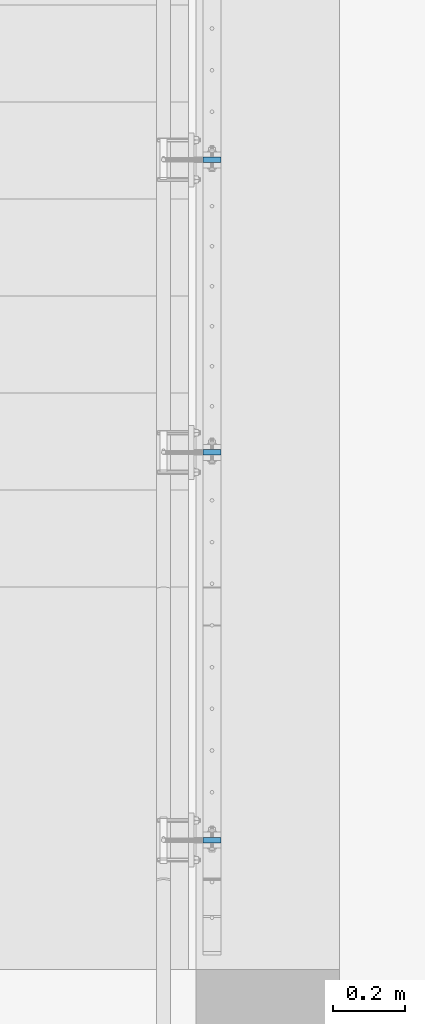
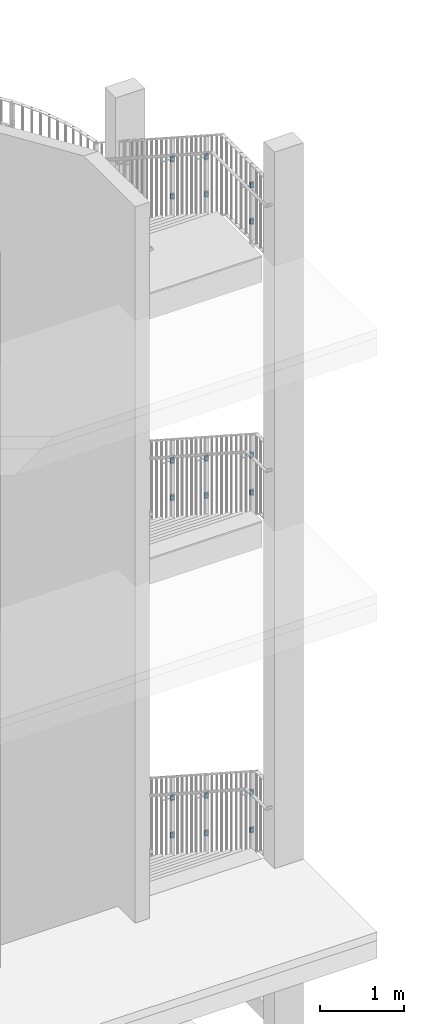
# One storey, part 123 of 296: 18 plates, 36 openings.
"""IFC2X3 building model written with IfcOpenShell, lengths in millimetres."""

from ifc_helpers import new_model, entity, si_unit, converted_unit, frame, frame_2d, origin, origin_with_axes, place, context, project, spatial, polyline, circle, outline, extrude, material, layer, layer_set, element, save


model = new_model("IFC2X3")

# Units and contexts
model_context = context("Model", 3, precision=1e-09, world=origin_with_axes())
ifc_project = project(units=[si_unit("LENGTHUNIT", "METRE", prefix="MILLI"), si_unit("AREAUNIT", "SQUARE_METRE"), si_unit("VOLUMEUNIT", "CUBIC_METRE"), converted_unit("PLANEANGLEUNIT", "DEGREE", entity("IfcPlaneAngleMeasure", 0.01745329), si_unit("PLANEANGLEUNIT", "RADIAN"), dimensions=[0, 0, 0, 0, 0, 0, 0])], contexts=[model_context])

# Site, building, storey
site_placement = place(None, origin_with_axes())
site = spatial("IfcSite", under=ifc_project, at=site_placement, Name="TZD-S?d | Treppenhausgel?nder", CompositionType="ELEMENT")
building_placement = place(site_placement, origin_with_axes())
building = spatial("IfcBuilding", under=site, at=building_placement, Name="Struktur 1", CompositionType="ELEMENT")
storey_placement = place(building_placement, origin_with_axes())
storey = spatial("IfcBuildingStorey", under=building, at=storey_placement, Name="Default Storey", CompositionType="ELEMENT", Elevation=0.0)

# Plate, openings
ifc_material = material(Name="S235JR")
ifc_layer = layer(ifc_material, 15.0)
ifc_layer_set = layer_set([ifc_layer], Name="S235JR")
plate_1_placement = place(None, frame((5894.999, -3407.5, 13915.001), z_axis=(0.0, 1.0, 0.0), x_axis=(-1.0, 0.0, 0.0)))
plate_1 = element("IfcPlate", 1, at=plate_1_placement, inside=storey, material=ifc_layer_set, Name="Girder", ObjectType="Girder", context=model_context, shape_type="SweptSolid", body=[
    extrude(outline(polyline([(-25.0, -40.0), (25.0, -40.0), (25.0, 40.0), (-25.0, 40.0), (-25.0, -40.0)])), origin_with_axes(), (0.0, 0.0, -1.0), 15.0),
])
opening_1_placement = place(plate_1_placement, frame((-5.001, 24.999999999, 0.5), z_axis=(0.0, 0.0, 1.0), x_axis=(1.0, 0.0, 0.0)))
element("IfcOpeningElement", 2, at=opening_1_placement, cuts=plate_1, ObjectType="Opening", context=model_context, shape_type="SweptSolid", body=[
    extrude(circle(Radius=5.001, at=frame_2d((5.001, 0.0), x_axis=(1.0, 0.0))), origin(), (0.0, 0.0, -1.0), 16.0),
])
opening_2_placement = place(plate_1_placement, frame((-5.001, -25.000000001, 0.5), z_axis=(0.0, 0.0, 1.0), x_axis=(1.0, 0.0, 0.0)))
element("IfcOpeningElement", 3, at=opening_2_placement, cuts=plate_1, ObjectType="Opening", context=model_context, shape_type="SweptSolid", body=[
    extrude(circle(Radius=5.001, at=frame_2d((5.001, 0.0), x_axis=(1.0, 0.0))), origin(), (0.0, 0.0, -1.0), 16.0),
])

plate_2_placement = place(None, frame((5894.999, -3407.5, 14445.001), z_axis=(0.0, 1.0, 0.0), x_axis=(-1.0, 0.0, 0.0)))
plate_2 = element("IfcPlate", 4, at=plate_2_placement, inside=storey, material=ifc_layer_set, Name="Girder", ObjectType="Girder", context=model_context, shape_type="SweptSolid", body=[
    extrude(outline(polyline([(-25.0, -40.0), (25.0, -40.0), (25.0, 40.0), (-25.0, 40.0), (-25.0, -40.0)])), origin_with_axes(), (0.0, 0.0, -1.0), 15.0),
])
opening_3_placement = place(plate_2_placement, frame((-5.001, 24.999999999, 0.5), z_axis=(0.0, 0.0, 1.0), x_axis=(1.0, 0.0, 0.0)))
element("IfcOpeningElement", 5, at=opening_3_placement, cuts=plate_2, ObjectType="Opening", context=model_context, shape_type="SweptSolid", body=[
    extrude(circle(Radius=5.001, at=frame_2d((5.001, 0.0), x_axis=(1.0, 0.0))), origin(), (0.0, 0.0, -1.0), 16.0),
])
opening_4_placement = place(plate_2_placement, frame((-5.001, -25.000000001, 0.5), z_axis=(0.0, 0.0, 1.0), x_axis=(1.0, 0.0, 0.0)))
element("IfcOpeningElement", 6, at=opening_4_placement, cuts=plate_2, ObjectType="Opening", context=model_context, shape_type="SweptSolid", body=[
    extrude(circle(Radius=5.001, at=frame_2d((5.001, 0.0), x_axis=(1.0, 0.0))), origin(), (0.0, 0.0, -1.0), 16.0),
])

plate_3_placement = place(None, frame((5894.999, -3407.5, 9980.001), z_axis=(0.0, 1.0, 0.0), x_axis=(-1.0, 0.0, 0.0)))
plate_3 = element("IfcPlate", 7, at=plate_3_placement, inside=storey, material=ifc_layer_set, Name="Girder", ObjectType="Girder", context=model_context, shape_type="SweptSolid", body=[
    extrude(outline(polyline([(-25.0, -40.0), (25.0, -40.0), (25.0, 40.0), (-25.0, 40.0), (-25.0, -40.0)])), origin_with_axes(), (0.0, 0.0, -1.0), 15.0),
])
opening_5_placement = place(plate_3_placement, frame((-5.001, 24.999999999, 0.5), z_axis=(0.0, 0.0, 1.0), x_axis=(1.0, 0.0, 0.0)))
element("IfcOpeningElement", 8, at=opening_5_placement, cuts=plate_3, ObjectType="Opening", context=model_context, shape_type="SweptSolid", body=[
    extrude(circle(Radius=5.001, at=frame_2d((5.001, 0.0), x_axis=(1.0, 0.0))), origin(), (0.0, 0.0, -1.0), 16.0),
])
opening_6_placement = place(plate_3_placement, frame((-5.001, -25.000000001, 0.5), z_axis=(0.0, 0.0, 1.0), x_axis=(1.0, 0.0, 0.0)))
element("IfcOpeningElement", 9, at=opening_6_placement, cuts=plate_3, ObjectType="Opening", context=model_context, shape_type="SweptSolid", body=[
    extrude(circle(Radius=5.001, at=frame_2d((5.001, 0.0), x_axis=(1.0, 0.0))), origin(), (0.0, 0.0, -1.0), 16.0),
])

plate_4_placement = place(None, frame((5894.999, -3407.5, 10519.337971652), z_axis=(0.0, 1.0, 0.0), x_axis=(-1.0, 0.0, 0.0)))
plate_4 = element("IfcPlate", 10, at=plate_4_placement, inside=storey, material=ifc_layer_set, Name="Girder", ObjectType="Girder", context=model_context, shape_type="SweptSolid", body=[
    extrude(outline(polyline([(-25.0, -40.0), (25.0, -40.0), (25.0, 40.0), (-25.0, 40.0), (-25.0, -40.0)])), origin_with_axes(), (0.0, 0.0, -1.0), 15.0),
])
opening_7_placement = place(plate_4_placement, frame((-5.001, 24.999999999, 0.5), z_axis=(0.0, 0.0, 1.0), x_axis=(1.0, 0.0, 0.0)))
element("IfcOpeningElement", 11, at=opening_7_placement, cuts=plate_4, ObjectType="Opening", context=model_context, shape_type="SweptSolid", body=[
    extrude(circle(Radius=5.001, at=frame_2d((5.001, 0.0), x_axis=(1.0, 0.0))), origin(), (0.0, 0.0, -1.0), 16.0),
])
opening_8_placement = place(plate_4_placement, frame((-5.001, -25.000000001, 0.5), z_axis=(0.0, 0.0, 1.0), x_axis=(1.0, 0.0, 0.0)))
element("IfcOpeningElement", 12, at=opening_8_placement, cuts=plate_4, ObjectType="Opening", context=model_context, shape_type="SweptSolid", body=[
    extrude(circle(Radius=5.001, at=frame_2d((5.001, 0.0), x_axis=(1.0, 0.0))), origin(), (0.0, 0.0, -1.0), 16.0),
])

plate_5_placement = place(None, frame((5894.999, -3407.5, 5080.001), z_axis=(0.0, 1.0, 0.0), x_axis=(-1.0, 0.0, 0.0)))
plate_5 = element("IfcPlate", 13, at=plate_5_placement, inside=storey, material=ifc_layer_set, Name="Girder", ObjectType="Girder", context=model_context, shape_type="SweptSolid", body=[
    extrude(outline(polyline([(-25.0, -40.0), (25.0, -40.0), (25.0, 40.0), (-25.0, 40.0), (-25.0, -40.0)])), origin_with_axes(), (0.0, 0.0, -1.0), 15.0),
])
opening_9_placement = place(plate_5_placement, frame((-5.001, 24.999999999, 0.5), z_axis=(0.0, 0.0, 1.0), x_axis=(1.0, 0.0, 0.0)))
element("IfcOpeningElement", 14, at=opening_9_placement, cuts=plate_5, ObjectType="Opening", context=model_context, shape_type="SweptSolid", body=[
    extrude(circle(Radius=5.001, at=frame_2d((5.001, 0.0), x_axis=(1.0, 0.0))), origin(), (0.0, 0.0, -1.0), 16.0),
])
opening_10_placement = place(plate_5_placement, frame((-5.001, -25.000000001, 0.5), z_axis=(0.0, 0.0, 1.0), x_axis=(1.0, 0.0, 0.0)))
element("IfcOpeningElement", 15, at=opening_10_placement, cuts=plate_5, ObjectType="Opening", context=model_context, shape_type="SweptSolid", body=[
    extrude(circle(Radius=5.001, at=frame_2d((5.001, 0.0), x_axis=(1.0, 0.0))), origin(), (0.0, 0.0, -1.0), 16.0),
])

plate_6_placement = place(None, frame((5894.999, -3407.5, 5622.709729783), z_axis=(0.0, 1.0, 0.0), x_axis=(-1.0, 0.0, 0.0)))
plate_6 = element("IfcPlate", 16, at=plate_6_placement, inside=storey, material=ifc_layer_set, Name="Girder", ObjectType="Girder", context=model_context, shape_type="SweptSolid", body=[
    extrude(outline(polyline([(-25.0, -40.0), (25.0, -40.0), (25.0, 40.0), (-25.0, 40.0), (-25.0, -40.0)])), origin_with_axes(), (0.0, 0.0, -1.0), 15.0),
])
opening_11_placement = place(plate_6_placement, frame((-5.001, 24.999999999, 0.5), z_axis=(0.0, 0.0, 1.0), x_axis=(1.0, 0.0, 0.0)))
element("IfcOpeningElement", 17, at=opening_11_placement, cuts=plate_6, ObjectType="Opening", context=model_context, shape_type="SweptSolid", body=[
    extrude(circle(Radius=5.001, at=frame_2d((5.001, 0.0), x_axis=(1.0, 0.0))), origin(), (0.0, 0.0, -1.0), 16.0),
])
opening_12_placement = place(plate_6_placement, frame((-5.001, -25.000000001, 0.5), z_axis=(0.0, 0.0, 1.0), x_axis=(1.0, 0.0, 0.0)))
element("IfcOpeningElement", 18, at=opening_12_placement, cuts=plate_6, ObjectType="Opening", context=model_context, shape_type="SweptSolid", body=[
    extrude(circle(Radius=5.001, at=frame_2d((5.001, 0.0), x_axis=(1.0, 0.0))), origin(), (0.0, 0.0, -1.0), 16.0),
])

plate_7_placement = place(None, frame((5894.999, -2327.5, 13655.001), z_axis=(0.0, 1.0, 0.0), x_axis=(-1.0, 0.0, 0.0)))
plate_7 = element("IfcPlate", 19, at=plate_7_placement, inside=storey, material=ifc_layer_set, Name="Girder", ObjectType="Girder", context=model_context, shape_type="SweptSolid", body=[
    extrude(outline(polyline([(-25.0, -40.0), (25.0, -40.0), (25.0, 40.0), (-25.0, 40.0), (-25.0, -40.0)])), origin_with_axes(), (0.0, 0.0, -1.0), 15.0),
])
opening_13_placement = place(plate_7_placement, frame((-5.001, 24.999999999, 0.5), z_axis=(0.0, 0.0, 1.0), x_axis=(1.0, 0.0, 0.0)))
element("IfcOpeningElement", 20, at=opening_13_placement, cuts=plate_7, ObjectType="Opening", context=model_context, shape_type="SweptSolid", body=[
    extrude(circle(Radius=5.001, at=frame_2d((5.001, 0.0), x_axis=(1.0, 0.0))), origin(), (0.0, 0.0, -1.0), 16.0),
])
opening_14_placement = place(plate_7_placement, frame((-5.001, -25.000000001, 0.5), z_axis=(0.0, 0.0, 1.0), x_axis=(1.0, 0.0, 0.0)))
element("IfcOpeningElement", 21, at=opening_14_placement, cuts=plate_7, ObjectType="Opening", context=model_context, shape_type="SweptSolid", body=[
    extrude(circle(Radius=5.001, at=frame_2d((5.001, 0.0), x_axis=(1.0, 0.0))), origin(), (0.0, 0.0, -1.0), 16.0),
])

plate_8_placement = place(None, frame((5894.999, -2327.5, 14197.793547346), z_axis=(0.0, 1.0, 0.0), x_axis=(-1.0, 0.0, 0.0)))
plate_8 = element("IfcPlate", 22, at=plate_8_placement, inside=storey, material=ifc_layer_set, Name="Girder", ObjectType="Girder", context=model_context, shape_type="SweptSolid", body=[
    extrude(outline(polyline([(-25.0, -40.0), (25.0, -40.0), (25.0, 40.0), (-25.0, 40.0), (-25.0, -40.0)])), origin_with_axes(), (0.0, 0.0, -1.0), 15.0),
])
opening_15_placement = place(plate_8_placement, frame((-5.001, 24.999999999, 0.5), z_axis=(0.0, 0.0, 1.0), x_axis=(1.0, 0.0, 0.0)))
element("IfcOpeningElement", 23, at=opening_15_placement, cuts=plate_8, ObjectType="Opening", context=model_context, shape_type="SweptSolid", body=[
    extrude(circle(Radius=5.001, at=frame_2d((5.001, 0.0), x_axis=(1.0, 0.0))), origin(), (0.0, 0.0, -1.0), 16.0),
])
opening_16_placement = place(plate_8_placement, frame((-5.001, -25.000000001, 0.5), z_axis=(0.0, 0.0, 1.0), x_axis=(1.0, 0.0, 0.0)))
element("IfcOpeningElement", 24, at=opening_16_placement, cuts=plate_8, ObjectType="Opening", context=model_context, shape_type="SweptSolid", body=[
    extrude(circle(Radius=5.001, at=frame_2d((5.001, 0.0), x_axis=(1.0, 0.0))), origin(), (0.0, 0.0, -1.0), 16.0),
])

plate_9_placement = place(None, frame((5894.999, -1512.5, 13129.999), z_axis=(0.0, 1.0, 0.0), x_axis=(-1.0, 0.0, 0.0)))
plate_9 = element("IfcPlate", 25, at=plate_9_placement, inside=storey, material=ifc_layer_set, Name="Girder", ObjectType="Girder", context=model_context, shape_type="SweptSolid", body=[
    extrude(outline(polyline([(-25.0, -40.0), (25.0, -40.0), (25.0, 40.0), (-25.0, 40.0), (-25.0, -40.0)])), origin_with_axes(), (0.0, 0.0, -1.0), 15.0),
])
opening_17_placement = place(plate_9_placement, frame((-5.001, 24.999999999, 0.5), z_axis=(0.0, 0.0, 1.0), x_axis=(1.0, 0.0, 0.0)))
element("IfcOpeningElement", 26, at=opening_17_placement, cuts=plate_9, ObjectType="Opening", context=model_context, shape_type="SweptSolid", body=[
    extrude(circle(Radius=5.001, at=frame_2d((5.001, 0.0), x_axis=(1.0, 0.0))), origin(), (0.0, 0.0, -1.0), 16.0),
])
opening_18_placement = place(plate_9_placement, frame((-5.001, -25.000000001, 0.5), z_axis=(0.0, 0.0, 1.0), x_axis=(1.0, 0.0, 0.0)))
element("IfcOpeningElement", 27, at=opening_18_placement, cuts=plate_9, ObjectType="Opening", context=model_context, shape_type="SweptSolid", body=[
    extrude(circle(Radius=5.001, at=frame_2d((5.001, 0.0), x_axis=(1.0, 0.0))), origin(), (0.0, 0.0, -1.0), 16.0),
])

plate_10_placement = place(None, frame((5894.999, -1512.5, 13670.127930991), z_axis=(0.0, 1.0, 0.0), x_axis=(-1.0, 0.0, 0.0)))
plate_10 = element("IfcPlate", 28, at=plate_10_placement, inside=storey, material=ifc_layer_set, Name="Girder", ObjectType="Girder", context=model_context, shape_type="SweptSolid", body=[
    extrude(outline(polyline([(-25.0, -40.0), (25.0, -40.0), (25.0, 40.0), (-25.0, 40.0), (-25.0, -40.0)])), origin_with_axes(), (0.0, 0.0, -1.0), 15.0),
])
opening_19_placement = place(plate_10_placement, frame((-5.001, 24.999999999, 0.5), z_axis=(0.0, 0.0, 1.0), x_axis=(1.0, 0.0, 0.0)))
element("IfcOpeningElement", 29, at=opening_19_placement, cuts=plate_10, ObjectType="Opening", context=model_context, shape_type="SweptSolid", body=[
    extrude(circle(Radius=5.001, at=frame_2d((5.001, 0.0), x_axis=(1.0, 0.0))), origin(), (0.0, 0.0, -1.0), 16.0),
])
opening_20_placement = place(plate_10_placement, frame((-5.001, -25.000000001, 0.5), z_axis=(0.0, 0.0, 1.0), x_axis=(1.0, 0.0, 0.0)))
element("IfcOpeningElement", 30, at=opening_20_placement, cuts=plate_10, ObjectType="Opening", context=model_context, shape_type="SweptSolid", body=[
    extrude(circle(Radius=5.001, at=frame_2d((5.001, 0.0), x_axis=(1.0, 0.0))), origin(), (0.0, 0.0, -1.0), 16.0),
])

plate_11_placement = place(None, frame((5894.999, -2327.5, 9279.997), z_axis=(0.0, 1.0, 0.0), x_axis=(-1.0, 0.0, 0.0)))
plate_11 = element("IfcPlate", 31, at=plate_11_placement, inside=storey, material=ifc_layer_set, Name="Girder", ObjectType="Girder", context=model_context, shape_type="SweptSolid", body=[
    extrude(outline(polyline([(-25.0, -40.0), (25.0, -40.0), (25.0, 40.0), (-25.0, 40.0), (-25.0, -40.0)])), origin_with_axes(), (0.0, 0.0, -1.0), 15.0),
])
opening_21_placement = place(plate_11_placement, frame((-5.001, 24.999999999, 0.5), z_axis=(0.0, 0.0, 1.0), x_axis=(1.0, 0.0, 0.0)))
element("IfcOpeningElement", 32, at=opening_21_placement, cuts=plate_11, ObjectType="Opening", context=model_context, shape_type="SweptSolid", body=[
    extrude(circle(Radius=5.001, at=frame_2d((5.001, 0.0), x_axis=(1.0, 0.0))), origin(), (0.0, 0.0, -1.0), 16.0),
])
opening_22_placement = place(plate_11_placement, frame((-5.001, -25.000000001, 0.5), z_axis=(0.0, 0.0, 1.0), x_axis=(1.0, 0.0, 0.0)))
element("IfcOpeningElement", 33, at=opening_22_placement, cuts=plate_11, ObjectType="Opening", context=model_context, shape_type="SweptSolid", body=[
    extrude(circle(Radius=5.001, at=frame_2d((5.001, 0.0), x_axis=(1.0, 0.0))), origin(), (0.0, 0.0, -1.0), 16.0),
])

plate_12_placement = place(None, frame((5894.999, -2327.5, 9819.862944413), z_axis=(0.0, 1.0, 0.0), x_axis=(-1.0, 0.0, 0.0)))
plate_12 = element("IfcPlate", 34, at=plate_12_placement, inside=storey, material=ifc_layer_set, Name="Girder", ObjectType="Girder", context=model_context, shape_type="SweptSolid", body=[
    extrude(outline(polyline([(-25.0, -40.0), (25.0, -40.0), (25.0, 40.0), (-25.0, 40.0), (-25.0, -40.0)])), origin_with_axes(), (0.0, 0.0, -1.0), 15.0),
])
opening_23_placement = place(plate_12_placement, frame((-5.001, 24.999999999, 0.5), z_axis=(0.0, 0.0, 1.0), x_axis=(1.0, 0.0, 0.0)))
element("IfcOpeningElement", 35, at=opening_23_placement, cuts=plate_12, ObjectType="Opening", context=model_context, shape_type="SweptSolid", body=[
    extrude(circle(Radius=5.001, at=frame_2d((5.001, 0.0), x_axis=(1.0, 0.0))), origin(), (0.0, 0.0, -1.0), 16.0),
])
opening_24_placement = place(plate_12_placement, frame((-5.001, -25.000000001, 0.5), z_axis=(0.0, 0.0, 1.0), x_axis=(1.0, 0.0, 0.0)))
element("IfcOpeningElement", 36, at=opening_24_placement, cuts=plate_12, ObjectType="Opening", context=model_context, shape_type="SweptSolid", body=[
    extrude(circle(Radius=5.001, at=frame_2d((5.001, 0.0), x_axis=(1.0, 0.0))), origin(), (0.0, 0.0, -1.0), 16.0),
])

plate_13_placement = place(None, frame((5894.999, -1512.5, 8754.999), z_axis=(0.0, 1.0, 0.0), x_axis=(-1.0, 0.0, 0.0)))
plate_13 = element("IfcPlate", 37, at=plate_13_placement, inside=storey, material=ifc_layer_set, Name="Girder", ObjectType="Girder", context=model_context, shape_type="SweptSolid", body=[
    extrude(outline(polyline([(-25.0, -40.0), (25.0, -40.0), (25.0, 40.0), (-25.0, 40.0), (-25.0, -40.0)])), origin_with_axes(), (0.0, 0.0, -1.0), 15.0),
])
opening_25_placement = place(plate_13_placement, frame((-5.001, 24.999999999, 0.5), z_axis=(0.0, 0.0, 1.0), x_axis=(1.0, 0.0, 0.0)))
element("IfcOpeningElement", 38, at=opening_25_placement, cuts=plate_13, ObjectType="Opening", context=model_context, shape_type="SweptSolid", body=[
    extrude(circle(Radius=5.001, at=frame_2d((5.001, 0.0), x_axis=(1.0, 0.0))), origin(), (0.0, 0.0, -1.0), 16.0),
])
opening_26_placement = place(plate_13_placement, frame((-5.001, -25.000000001, 0.5), z_axis=(0.0, 0.0, 1.0), x_axis=(1.0, 0.0, 0.0)))
element("IfcOpeningElement", 39, at=opening_26_placement, cuts=plate_13, ObjectType="Opening", context=model_context, shape_type="SweptSolid", body=[
    extrude(circle(Radius=5.001, at=frame_2d((5.001, 0.0), x_axis=(1.0, 0.0))), origin(), (0.0, 0.0, -1.0), 16.0),
])

plate_14_placement = place(None, frame((5894.999, -1512.5, 9292.018363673), z_axis=(0.0, 1.0, 0.0), x_axis=(-1.0, 0.0, 0.0)))
plate_14 = element("IfcPlate", 40, at=plate_14_placement, inside=storey, material=ifc_layer_set, Name="Girder", ObjectType="Girder", context=model_context, shape_type="SweptSolid", body=[
    extrude(outline(polyline([(-25.0, -40.0), (25.0, -40.0), (25.0, 40.0), (-25.0, 40.0), (-25.0, -40.0)])), origin_with_axes(), (0.0, 0.0, -1.0), 15.0),
])
opening_27_placement = place(plate_14_placement, frame((-5.001, 24.999999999, 0.5), z_axis=(0.0, 0.0, 1.0), x_axis=(1.0, 0.0, 0.0)))
element("IfcOpeningElement", 41, at=opening_27_placement, cuts=plate_14, ObjectType="Opening", context=model_context, shape_type="SweptSolid", body=[
    extrude(circle(Radius=5.001, at=frame_2d((5.001, 0.0), x_axis=(1.0, 0.0))), origin(), (0.0, 0.0, -1.0), 16.0),
])
opening_28_placement = place(plate_14_placement, frame((-5.001, -25.000000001, 0.5), z_axis=(0.0, 0.0, 1.0), x_axis=(1.0, 0.0, 0.0)))
element("IfcOpeningElement", 42, at=opening_28_placement, cuts=plate_14, ObjectType="Opening", context=model_context, shape_type="SweptSolid", body=[
    extrude(circle(Radius=5.001, at=frame_2d((5.001, 0.0), x_axis=(1.0, 0.0))), origin(), (0.0, 0.0, -1.0), 16.0),
])

plate_15_placement = place(None, frame((5894.999, -2327.5, 4379.997), z_axis=(0.0, 1.0, 0.0), x_axis=(-1.0, 0.0, 0.0)))
plate_15 = element("IfcPlate", 43, at=plate_15_placement, inside=storey, material=ifc_layer_set, Name="Girder", ObjectType="Girder", context=model_context, shape_type="SweptSolid", body=[
    extrude(outline(polyline([(-25.0, -40.0), (25.0, -40.0), (25.0, 40.0), (-25.0, 40.0), (-25.0, -40.0)])), origin_with_axes(), (0.0, 0.0, -1.0), 15.0),
])
opening_29_placement = place(plate_15_placement, frame((-5.001, 24.999999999, 0.5), z_axis=(0.0, 0.0, 1.0), x_axis=(1.0, 0.0, 0.0)))
element("IfcOpeningElement", 44, at=opening_29_placement, cuts=plate_15, ObjectType="Opening", context=model_context, shape_type="SweptSolid", body=[
    extrude(circle(Radius=5.001, at=frame_2d((5.001, 0.0), x_axis=(1.0, 0.0))), origin(), (0.0, 0.0, -1.0), 16.0),
])
opening_30_placement = place(plate_15_placement, frame((-5.001, -25.000000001, 0.5), z_axis=(0.0, 0.0, 1.0), x_axis=(1.0, 0.0, 0.0)))
element("IfcOpeningElement", 45, at=opening_30_placement, cuts=plate_15, ObjectType="Opening", context=model_context, shape_type="SweptSolid", body=[
    extrude(circle(Radius=5.001, at=frame_2d((5.001, 0.0), x_axis=(1.0, 0.0))), origin(), (0.0, 0.0, -1.0), 16.0),
])

plate_16_placement = place(None, frame((5894.999, -2327.5, 4924.418636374), z_axis=(0.0, 1.0, 0.0), x_axis=(-1.0, 0.0, 0.0)))
plate_16 = element("IfcPlate", 46, at=plate_16_placement, inside=storey, material=ifc_layer_set, Name="Girder", ObjectType="Girder", context=model_context, shape_type="SweptSolid", body=[
    extrude(outline(polyline([(-25.0, -40.0), (25.0, -40.0), (25.0, 40.0), (-25.0, 40.0), (-25.0, -40.0)])), origin_with_axes(), (0.0, 0.0, -1.0), 15.0),
])
opening_31_placement = place(plate_16_placement, frame((-5.001, 24.999999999, 0.5), z_axis=(0.0, 0.0, 1.0), x_axis=(1.0, 0.0, 0.0)))
element("IfcOpeningElement", 47, at=opening_31_placement, cuts=plate_16, ObjectType="Opening", context=model_context, shape_type="SweptSolid", body=[
    extrude(circle(Radius=5.001, at=frame_2d((5.001, 0.0), x_axis=(1.0, 0.0))), origin(), (0.0, 0.0, -1.0), 16.0),
])
opening_32_placement = place(plate_16_placement, frame((-5.001, -25.000000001, 0.5), z_axis=(0.0, 0.0, 1.0), x_axis=(1.0, 0.0, 0.0)))
element("IfcOpeningElement", 48, at=opening_32_placement, cuts=plate_16, ObjectType="Opening", context=model_context, shape_type="SweptSolid", body=[
    extrude(circle(Radius=5.001, at=frame_2d((5.001, 0.0), x_axis=(1.0, 0.0))), origin(), (0.0, 0.0, -1.0), 16.0),
])

plate_17_placement = place(None, frame((5894.999, -1512.5, 3854.997), z_axis=(0.0, 1.0, 0.0), x_axis=(-1.0, 0.0, 0.0)))
plate_17 = element("IfcPlate", 49, at=plate_17_placement, inside=storey, material=ifc_layer_set, Name="Girder", ObjectType="Girder", context=model_context, shape_type="SweptSolid", body=[
    extrude(outline(polyline([(-25.0, -40.0), (25.0, -40.0), (25.0, 40.0), (-25.0, 40.0), (-25.0, -40.0)])), origin_with_axes(), (0.0, 0.0, -1.0), 15.0),
])
opening_33_placement = place(plate_17_placement, frame((-5.001, 24.999999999, 0.5), z_axis=(0.0, 0.0, 1.0), x_axis=(1.0, 0.0, 0.0)))
element("IfcOpeningElement", 50, at=opening_33_placement, cuts=plate_17, ObjectType="Opening", context=model_context, shape_type="SweptSolid", body=[
    extrude(circle(Radius=5.001, at=frame_2d((5.001, 0.0), x_axis=(1.0, 0.0))), origin(), (0.0, 0.0, -1.0), 16.0),
])
opening_34_placement = place(plate_17_placement, frame((-5.001, -25.000000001, 0.5), z_axis=(0.0, 0.0, 1.0), x_axis=(1.0, 0.0, 0.0)))
element("IfcOpeningElement", 51, at=opening_34_placement, cuts=plate_17, ObjectType="Opening", context=model_context, shape_type="SweptSolid", body=[
    extrude(circle(Radius=5.001, at=frame_2d((5.001, 0.0), x_axis=(1.0, 0.0))), origin(), (0.0, 0.0, -1.0), 16.0),
])

plate_18_placement = place(None, frame((5894.999, -1512.5, 4397.705729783), z_axis=(0.0, 1.0, 0.0), x_axis=(-1.0, 0.0, 0.0)))
plate_18 = element("IfcPlate", 52, at=plate_18_placement, inside=storey, material=ifc_layer_set, Name="Girder", ObjectType="Girder", context=model_context, shape_type="SweptSolid", body=[
    extrude(outline(polyline([(-25.0, -40.0), (25.0, -40.0), (25.0, 40.0), (-25.0, 40.0), (-25.0, -40.0)])), origin_with_axes(), (0.0, 0.0, -1.0), 15.0),
])
opening_35_placement = place(plate_18_placement, frame((-5.001, 24.999999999, 0.5), z_axis=(0.0, 0.0, 1.0), x_axis=(1.0, 0.0, 0.0)))
element("IfcOpeningElement", 53, at=opening_35_placement, cuts=plate_18, ObjectType="Opening", context=model_context, shape_type="SweptSolid", body=[
    extrude(circle(Radius=5.001, at=frame_2d((5.001, 0.0), x_axis=(1.0, 0.0))), origin(), (0.0, 0.0, -1.0), 16.0),
])
opening_36_placement = place(plate_18_placement, frame((-5.001, -25.000000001, 0.5), z_axis=(0.0, 0.0, 1.0), x_axis=(1.0, 0.0, 0.0)))
element("IfcOpeningElement", 54, at=opening_36_placement, cuts=plate_18, ObjectType="Opening", context=model_context, shape_type="SweptSolid", body=[
    extrude(circle(Radius=5.001, at=frame_2d((5.001, 0.0), x_axis=(1.0, 0.0))), origin(), (0.0, 0.0, -1.0), 16.0),
])

save(model, "model.ifc")
